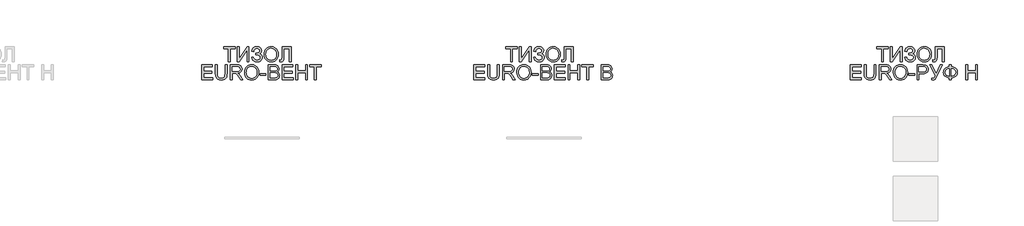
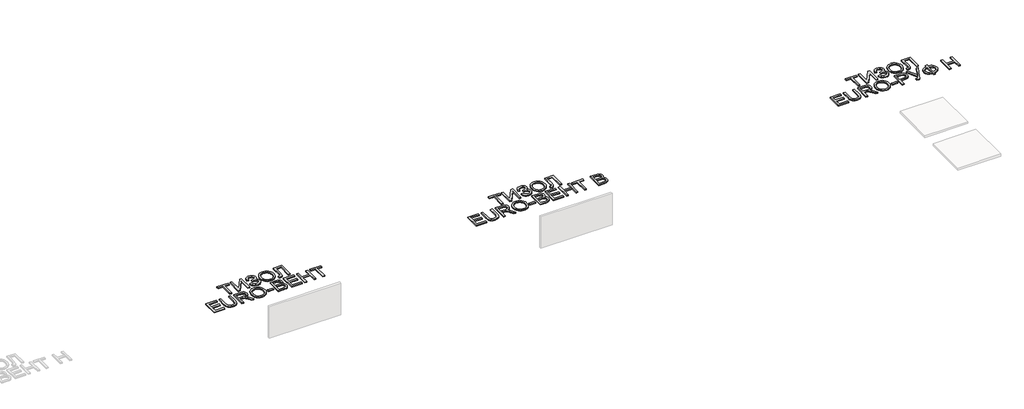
# One storey, part 32 of 35: 3 proxies.
"""IFC4 building model written with IfcOpenShell, lengths in millimetres."""

from ifc_helpers import new_model, si_unit, origin, origin_with_axes, place, context, project, spatial, polyline, outline, extrude, element, save

model = new_model("IFC4")

# Units and contexts
model_context = context("Model", 3, world=origin())
ifc_project = project(units=[si_unit("LENGTHUNIT", "METRE", prefix="MILLI")], contexts=[model_context])

# Site, building, storey
site = spatial("IfcSite", under=ifc_project)
building = spatial("IfcBuilding", under=site)
storey = spatial("IfcBuildingStorey", under=building, Name="Этаж 01", Elevation=0.0)

# Proxies
placement = place(None, origin())
element("IfcBuildingElementProxy", 1, Name="600 мм Arial", ObjectType="600 мм Arial", at=placement, inside=storey, context=model_context, shape_type="SweptSolid", body=[
    extrude(outline(polyline([(38812.8246338, 5315.0742808), (38812.8246338, 5578.7720949), (38713.9379535, 5578.7720949), (38713.9379535, 5616.4432112), (38949.3824304, 5616.4432112), (38949.3824304, 5578.7720949), (38850.4957501, 5578.7720949), (38850.4957501, 5315.0742808), (38812.8246338, 5315.0742808)])), origin_with_axes(), (0.0, 0.0, 1.0), 20.0),
    extrude(outline(polyline([(38991.7624363, 5616.4432112), (39029.4335526, 5616.4432112), (39029.4335526, 5377.7613727), (39187.1813521, 5616.4432112), (39227.2069132, 5616.4432112), (39227.2069132, 5315.0742808), (39189.5357969, 5315.0742808), (39189.5357969, 5553.0939316), (39032.1558793, 5315.0742808), (38991.7624363, 5315.0742808), (38991.7624363, 5616.4432112)])), origin_with_axes(), (0.0, 0.0, 1.0), 20.0),
    extrude(outline(polyline([(39279.0046981, 5399.8342925), (39316.6758144, 5409.2520715), (39324.6312626, 5388.8622119), (39339.8155919, 5368.4539583), (39361.6769795, 5353.1408702), (39389.6636023, 5348.0365075), (39418.018107, 5351.8716773), (39439.6587654, 5363.3771867), (39453.3715668, 5380.3089556), (39457.9425006, 5400.4229036), (39452.9485025, 5421.4933449), (39437.9665082, 5437.7629262), (39414.3760753, 5448.1647896), (39383.5567611, 5451.6320774), (39363.7647098, 5451.6320774), (39363.7647098, 5489.3031937), (39406.402233, 5492.3566142), (39420.2989754, 5497.7828737), (39432.4850665, 5507.9548108), (39440.9831406, 5521.3549125), (39443.8158319, 5536.4656655), (39440.0450415, 5554.2067747), (39428.7326701, 5569.4646804), (39410.9823639, 5579.9769084), (39387.8977687, 5583.4809844), (39367.0296625, 5580.7862488), (39349.4541002, 5572.702042), (39335.9896192, 5560.166463), (39327.4547569, 5544.117611), (39321.384704, 5517.5565309), (39283.7135876, 5526.97431), (39295.4168336, 5568.1770934), (39304.8311638, 5584.3639012), (39316.6206321, 5597.6076531), (39330.7852386, 5607.9083489), (39347.3249831, 5615.2659888), (39366.2398658, 5619.6805728), (39387.5298867, 5621.1521008), (39408.0416072, 5619.6230912), (39426.313846, 5615.0360626), (39442.3466032, 5607.3910149), (39456.1398788, 5596.6879481), (39467.2292217, 5583.9385377), (39475.1501809, 5570.1544592), (39479.9027564, 5555.3357126), (39481.4869483, 5539.4822978), (39479.0221389, 5519.6580568), (39471.6277108, 5502.1974576), (39459.3036639, 5487.1005002), (39442.0499984, 5474.3671847), (39463.000878, 5464.7194794), (39480.2361495, 5448.431504), (39491.76925, 5426.9012102), (39495.6136169, 5401.5265496), (39493.7696084, 5382.8956258), (39488.2375829, 5365.8511932), (39479.0175404, 5350.3932516), (39466.1094809, 5336.5218011), (39450.1571978, 5325.0783718), (39431.8044848, 5316.9044937), (39411.0513418, 5312.0001668), (39387.8977687, 5310.3653912), (39349.6932235, 5315.9571976), (39333.3362703, 5322.9469555), (39318.80953, 5332.7326165), (39306.1130026, 5345.3141808), (39295.2466882, 5360.6916482), (39279.0046981, 5399.8342925)])), origin_with_axes(), (0.0, 0.0, 1.0), 20.0),
    extrude(outline(polyline([(39533.2847332, 5461.7856204), (39535.7955278, 5497.1344817), (39543.3279116, 5528.4274439), (39555.8818847, 5555.6645071), (39573.457447, 5578.8456713), (39595.0015364, 5597.3547342), (39619.4610905, 5610.5754934), (39646.8361095, 5618.5079489), (39677.1265933, 5621.1521008), (39716.6555137, 5616.1856938), (39752.1009439, 5601.286473), (39781.5315035, 5577.502902), (39803.015812, 5545.8834445), (39816.1491993, 5507.9548108), (39820.526995, 5465.2437112), (39815.919273, 5421.9623945), (39802.096107, 5383.5003319), (39779.8208522, 5351.8256921), (39749.8568637, 5328.9066438), (39714.7149361, 5315.0007044), (39676.9058641, 5310.3653912), (39636.7699384, 5315.488148), (39601.1221731, 5330.8564184), (39571.7651899, 5355.0814477), (39550.5016105, 5386.7744816), (39537.5889525, 5423.2407844), (39533.2847332, 5461.7856204)]), holes=[polyline([(39570.9558495, 5461.4177384), (39572.8389454, 5436.4431495), (39578.4882333, 5414.2736608), (39587.9037131, 5394.9092722), (39601.0853849, 5378.3499839), (39617.108945, 5365.087838), (39635.0500901, 5355.6148766), (39654.90882, 5349.9310998), (39676.6851349, 5348.0365075), (39698.8339303, 5349.9494939), (39718.927185, 5355.688453), (39736.9648991, 5365.2533849), (39752.9470725, 5378.6442895), (39766.0321752, 5395.5530657), (39775.3786771, 5415.6716123), (39780.9865783, 5438.9999294), (39782.8558787, 5465.5380168), (39779.6553053, 5498.8865197), (39770.0535853, 5527.710074), (39754.2990388, 5551.2821128), (39732.6399864, 5568.8760692), (39706.5111677, 5579.8297556), (39677.3473225, 5583.4809844), (39656.327465, 5581.7220487), (39636.8251207, 5576.4452413), (39618.8402897, 5567.6505623), (39602.3729719, 5555.3380118), (39588.6279808, 5538.91438), (39578.8101301, 5517.7864572), (39572.9194196, 5491.9542433), (39570.9558495, 5461.4177384)])]), origin_with_axes(), (0.0, 0.0, 1.0), 20.0),
    extrude(outline(polyline([(39895.8692276, 5616.4432112), (40079.5159196, 5616.4432112), (40079.5159196, 5315.0742808), (40041.8448033, 5315.0742808), (40041.8448033, 5578.7720949), (39933.5403439, 5578.7720949), (39933.5403439, 5424.9974209), (39929.1625482, 5356.3874288), (39922.3843224, 5337.0000477), (39910.8052366, 5322.4687089), (39894.9495226, 5313.3912206), (39875.3414123, 5310.3653912), (39844.0714427, 5315.0742808), (39848.7803322, 5352.7453971), (39866.80655, 5348.0365075), (39879.5444641, 5350.5656963), (39888.6219523, 5358.1532624), (39894.0574088, 5375.1218194), (39895.8692276, 5405.7939808), (39895.8692276, 5616.4432112)])), origin_with_axes(), (0.0, 0.0, 1.0), 20.0),
    extrude(outline(polyline([(38271.3023369, 4949.1498272), (38271.3023369, 5250.5187577), (38487.9112557, 5250.5187577), (38487.9112557, 5212.8476414), (38308.9734532, 5212.8476414), (38308.9734532, 5123.3787401), (38478.4934766, 5123.3787401), (38478.4934766, 5085.7076238), (38308.9734532, 5085.7076238), (38308.9734532, 4986.8209435), (38492.6201452, 4986.8209435), (38492.6201452, 4949.1498272), (38271.3023369, 4949.1498272)])), origin_with_axes(), (0.0, 0.0, 1.0), 20.0),
    extrude(outline(polyline([(38746.9001803, 5250.5187577), (38784.5712966, 5250.5187577), (38784.5712966, 5076.6577268), (38782.0145167, 5035.9423869), (38774.3441771, 5004.5896439), (38760.0151734, 4980.4014027), (38737.4824012, 4961.1795685), (38706.6906782, 4948.6255954), (38667.5848221, 4944.4409377), (38629.3342917, 4948.0829694), (38598.7541008, 4959.0090647), (38575.8350525, 4976.8421444), (38560.5679497, 5001.2051295), (38551.9871022, 5033.8822478), (38549.1268197, 5076.6577268), (38549.1268197, 5250.5187577), (38586.797936, 5250.5187577), (38586.797936, 5077.9821019), (38588.6557401, 5044.1277613), (38594.2291523, 5020.5557225), (38604.3275131, 5004.230959), (38619.7601627, 4992.1184443), (38639.8833079, 4984.6136516), (38664.053155, 4982.112054), (38702.3680648, 4987.0600668), (38716.7108641, 4993.2450829), (38727.8438929, 5001.9041053), (38736.1810186, 5014.0809994), (38742.1361084, 5030.8196302), (38746.9001803, 5077.9821019), (38746.9001803, 5250.5187577)])), origin_with_axes(), (0.0, 0.0, 1.0), 20.0),
    extrude(outline(polyline([(38850.4957501, 4949.1498272), (38850.4957501, 5250.5187577), (38980.3580944, 5250.5187577), (39015.2608987, 5248.4862097), (39040.6539534, 5242.3885656), (39059.2136001, 5231.1313765), (39073.6161802, 5213.6201936), (39082.8592153, 5191.9059588), (39085.940227, 5168.0396144), (39080.8358644, 5138.3515373), (39065.5227763, 5113.7402319), (39053.9229971, 5103.710849), (39039.5411104, 5095.69562), (39002.4310141, 5085.7076238), (39023.8417463, 5069.5943925), (39054.3759519, 5030.8196302), (39104.6286324, 4949.1498272), (39060.850675, 4949.1498272), (39021.6344543, 5011.61619), (38993.3075407, 5052.9661263), (38973.4051247, 5072.5006602), (38955.4892715, 5079.6743591), (38933.637081, 5080.9987343), (38888.1668664, 5080.9987343), (38888.1668664, 4949.1498272), (38850.4957501, 4949.1498272)]), holes=[polyline([(38888.1668664, 5118.6698506), (38972.4854197, 5118.6698506), (38996.7012521, 5120.0034228), (39015.490825, 5124.0041395), (39029.6358877, 5130.9387151), (39039.9181894, 5141.0738641), (39046.1813804, 5153.3335316), (39048.2691107, 5166.6416628), (39044.2867881, 5185.0173684), (39032.3398203, 5199.8246187), (39011.7844139, 5209.5918857), (38981.9767752, 5212.8476414), (38888.1668664, 5212.8476414), (38888.1668664, 5118.6698506)])]), origin_with_axes(), (0.0, 0.0, 1.0), 20.0),
    extrude(outline(polyline([(39137.738012, 5095.8611669), (39140.2488066, 5131.2100281), (39147.7811904, 5162.5029903), (39160.3351635, 5189.7400536), (39177.9107258, 5212.9212178), (39199.4548152, 5231.4302807), (39223.9143693, 5244.6510399), (39251.2893883, 5252.5834954), (39281.5798721, 5255.2276472), (39321.1087925, 5250.2612403), (39356.5542227, 5235.3620195), (39385.9847823, 5211.5784485), (39407.4690908, 5179.958991), (39420.6024781, 5142.0303573), (39424.9802738, 5099.3192577), (39420.3725518, 5056.0379409), (39406.5493858, 5017.5758783), (39384.274131, 4985.9012385), (39354.3101425, 4962.9821902), (39319.1682149, 4949.0762508), (39281.3591429, 4944.4409377), (39241.2232172, 4949.5636945), (39205.5754519, 4964.9319648), (39176.2184687, 4989.1569942), (39154.9548893, 5020.8500281), (39142.0422313, 5057.3163309), (39137.738012, 5095.8611669)]), holes=[polyline([(39175.4091283, 5095.4932849), (39177.2922242, 5070.518696), (39182.9415121, 5048.3492072), (39192.3569919, 5028.9848187), (39205.5386637, 5012.4255304), (39221.5622238, 4999.1633845), (39239.5033689, 4989.6904231), (39259.3620988, 4984.0066463), (39281.1384137, 4982.112054), (39303.2872091, 4984.0250404), (39323.3804638, 4989.7639995), (39341.4181779, 4999.3289314), (39357.4003513, 5012.719836), (39370.485454, 5029.6286122), (39379.8319559, 5049.7471588), (39385.4398571, 5073.0754758), (39387.3091575, 5099.6135633), (39384.1085841, 5132.9620661), (39374.5068641, 5161.7856204), (39358.7523176, 5185.3576593), (39337.0932651, 5202.9516157), (39310.9644464, 5213.9053021), (39281.8006013, 5217.5565309), (39260.7807438, 5215.7975951), (39241.2783995, 5210.5207878), (39223.2935685, 5201.7261088), (39206.8262507, 5189.4135583), (39193.0812596, 5172.9899265), (39183.2634089, 5151.8620036), (39177.3726984, 5126.0297898), (39175.4091283, 5095.4932849)])]), origin_with_axes(), (0.0, 0.0, 1.0), 20.0),
    extrude(outline(polyline([(39453.233611, 5038.6187285), (39453.233611, 5076.2898448), (39570.9558495, 5076.2898448), (39570.9558495, 5038.6187285), (39453.233611, 5038.6187285)])), origin_with_axes(), (0.0, 0.0, 1.0), 20.0),
    extrude(outline(polyline([(39618.0447449, 4949.1498272), (39618.0447449, 5250.5187577), (39733.0446566, 5250.5187577), (39764.6733111, 5248.3022687), (39789.36739, 5241.6528016), (39808.2949187, 5230.4048096), (39822.6239224, 5214.3927458), (39831.6462283, 5195.5571876), (39834.6536636, 5175.8387127), (39832.1244749, 5157.6929332), (39824.5369088, 5140.6324057), (39811.8357829, 5125.7055938), (39793.965915, 5113.9609611), (39815.3122677, 5102.8141366), (39831.0852083, 5085.8547766), (39840.8248841, 5064.2049212), (39844.0714427, 5038.9866105), (39841.8549537, 5017.9713515), (39835.2054866, 4998.4828028), (39825.2818698, 4981.9097189), (39813.2429315, 4969.6408544), (39798.5000605, 4960.7565042), (39780.4646457, 4954.3369634), (39732.1617398, 4949.1498272), (39618.0447449, 4949.1498272)]), holes=[polyline([(39655.7158612, 5128.0876297), (39724.5097943, 5128.0876297), (39764.6825081, 5131.3249912), (39778.7447974, 5136.9076005), (39788.8523552, 5145.2677189), (39794.9499993, 5156.2765876), (39796.9825473, 5169.8054479), (39795.087955, 5182.9388352), (39789.4041782, 5194.3799652), (39780.1887342, 5203.3103006), (39767.6991405, 5208.911304), (39719.2858699, 5212.8476414), (39655.7158612, 5212.8476414), (39655.7158612, 5128.0876297)]), polyline([(39655.7158612, 4986.8209435), (39732.9710802, 4986.8209435), (39760.9301118, 4988.2924715), (39784.5849241, 4996.49624), (39800.2566971, 5013.2348708), (39804.8644191, 5025.0622769), (39806.4003264, 5038.6187285), (39804.5977046, 5054.3640779), (39799.1898393, 5067.9021353), (39789.7444691, 5078.4879397), (39775.8293326, 5085.37653), (39756.1200547, 5089.1565175), (39729.2922602, 5090.4165134), (39655.7158612, 5090.4165134), (39655.7158612, 4986.8209435)])]), origin_with_axes(), (0.0, 0.0, 1.0), 20.0),
    extrude(outline(polyline([(39895.8692276, 4949.1498272), (39895.8692276, 5250.5187577), (40112.4781464, 5250.5187577), (40112.4781464, 5212.8476414), (39933.5403439, 5212.8476414), (39933.5403439, 5123.3787401), (40103.0603673, 5123.3787401), (40103.0603673, 5085.7076238), (39933.5403439, 5085.7076238), (39933.5403439, 4986.8209435), (40117.1870359, 4986.8209435), (40117.1870359, 4949.1498272), (39895.8692276, 4949.1498272)])), origin_with_axes(), (0.0, 0.0, 1.0), 20.0),
    extrude(outline(polyline([(40173.6937104, 4949.1498272), (40173.6937104, 5250.5187577), (40211.3648267, 5250.5187577), (40211.3648267, 5128.0876297), (40371.467071, 5128.0876297), (40371.467071, 5250.5187577), (40409.1381873, 5250.5187577), (40409.1381873, 4949.1498272), (40371.467071, 4949.1498272), (40371.467071, 5090.4165134), (40211.3648267, 5090.4165134), (40211.3648267, 4949.1498272), (40173.6937104, 4949.1498272)])), origin_with_axes(), (0.0, 0.0, 1.0), 20.0),
    extrude(outline(polyline([(40550.4048734, 4949.1498272), (40550.4048734, 5212.8476414), (40451.5181931, 5212.8476414), (40451.5181931, 5250.5187577), (40686.96267, 5250.5187577), (40686.96267, 5212.8476414), (40588.0759897, 5212.8476414), (40588.0759897, 4949.1498272), (40550.4048734, 4949.1498272)])), origin_with_axes(), (0.0, 0.0, 1.0), 20.0),
])
element("IfcBuildingElementProxy", 2, Name="600 мм Arial", ObjectType="600 мм Arial", at=placement, inside=storey, context=model_context, shape_type="SweptSolid", body=[
    extrude(outline(polyline([(44512.8246338, 5315.0742808), (44512.8246338, 5578.7720949), (44413.9379535, 5578.7720949), (44413.9379535, 5616.4432112), (44649.3824304, 5616.4432112), (44649.3824304, 5578.7720949), (44550.4957501, 5578.7720949), (44550.4957501, 5315.0742808), (44512.8246338, 5315.0742808)])), origin_with_axes(), (0.0, 0.0, 1.0), 20.0),
    extrude(outline(polyline([(44691.7624363, 5616.4432112), (44729.4335526, 5616.4432112), (44729.4335526, 5377.7613727), (44887.1813521, 5616.4432112), (44927.2069132, 5616.4432112), (44927.2069132, 5315.0742808), (44889.5357969, 5315.0742808), (44889.5357969, 5553.0939316), (44732.1558793, 5315.0742808), (44691.7624363, 5315.0742808), (44691.7624363, 5616.4432112)])), origin_with_axes(), (0.0, 0.0, 1.0), 20.0),
    extrude(outline(polyline([(44979.0046981, 5399.8342925), (45016.6758144, 5409.2520715), (45024.6312626, 5388.8622119), (45039.8155919, 5368.4539583), (45061.6769795, 5353.1408702), (45089.6636023, 5348.0365075), (45118.018107, 5351.8716773), (45139.6587654, 5363.3771867), (45153.3715668, 5380.3089556), (45157.9425006, 5400.4229036), (45152.9485025, 5421.4933449), (45137.9665082, 5437.7629262), (45114.3760753, 5448.1647896), (45083.5567611, 5451.6320774), (45063.7647098, 5451.6320774), (45063.7647098, 5489.3031937), (45106.402233, 5492.3566142), (45120.2989754, 5497.7828737), (45132.4850665, 5507.9548108), (45140.9831406, 5521.3549125), (45143.8158319, 5536.4656655), (45140.0450415, 5554.2067747), (45128.7326701, 5569.4646804), (45110.9823639, 5579.9769084), (45087.8977687, 5583.4809844), (45067.0296625, 5580.7862488), (45049.4541002, 5572.702042), (45035.9896192, 5560.166463), (45027.4547569, 5544.117611), (45021.384704, 5517.5565309), (44983.7135876, 5526.97431), (44995.4168336, 5568.1770934), (45004.8311638, 5584.3639012), (45016.6206321, 5597.6076531), (45030.7852386, 5607.9083489), (45047.3249831, 5615.2659888), (45066.2398658, 5619.6805728), (45087.5298867, 5621.1521008), (45108.0416072, 5619.6230912), (45126.313846, 5615.0360626), (45142.3466032, 5607.3910149), (45156.1398788, 5596.6879481), (45167.2292217, 5583.9385377), (45175.1501809, 5570.1544592), (45179.9027564, 5555.3357126), (45181.4869483, 5539.4822978), (45179.0221389, 5519.6580568), (45171.6277108, 5502.1974576), (45159.3036639, 5487.1005002), (45142.0499984, 5474.3671847), (45163.000878, 5464.7194794), (45180.2361495, 5448.431504), (45191.76925, 5426.9012102), (45195.6136169, 5401.5265496), (45193.7696084, 5382.8956258), (45188.2375829, 5365.8511932), (45179.0175404, 5350.3932516), (45166.1094809, 5336.5218011), (45150.1571978, 5325.0783718), (45131.8044848, 5316.9044937), (45111.0513418, 5312.0001668), (45087.8977687, 5310.3653912), (45049.6932235, 5315.9571976), (45033.3362703, 5322.9469555), (45018.80953, 5332.7326165), (45006.1130026, 5345.3141808), (44995.2466882, 5360.6916482), (44979.0046981, 5399.8342925)])), origin_with_axes(), (0.0, 0.0, 1.0), 20.0),
    extrude(outline(polyline([(45233.2847332, 5461.7856204), (45235.7955278, 5497.1344817), (45243.3279116, 5528.4274439), (45255.8818847, 5555.6645071), (45273.457447, 5578.8456713), (45295.0015364, 5597.3547342), (45319.4610905, 5610.5754934), (45346.8361095, 5618.5079489), (45377.1265933, 5621.1521008), (45416.6555137, 5616.1856938), (45452.1009439, 5601.286473), (45481.5315035, 5577.502902), (45503.015812, 5545.8834445), (45516.1491993, 5507.9548108), (45520.526995, 5465.2437112), (45515.919273, 5421.9623945), (45502.096107, 5383.5003319), (45479.8208522, 5351.8256921), (45449.8568637, 5328.9066438), (45414.7149361, 5315.0007044), (45376.9058641, 5310.3653912), (45336.7699384, 5315.488148), (45301.1221731, 5330.8564184), (45271.7651899, 5355.0814477), (45250.5016105, 5386.7744816), (45237.5889525, 5423.2407844), (45233.2847332, 5461.7856204)]), holes=[polyline([(45270.9558495, 5461.4177384), (45272.8389454, 5436.4431495), (45278.4882333, 5414.2736608), (45287.9037131, 5394.9092722), (45301.0853849, 5378.3499839), (45317.108945, 5365.087838), (45335.0500901, 5355.6148766), (45354.90882, 5349.9310998), (45376.6851349, 5348.0365075), (45398.8339303, 5349.9494939), (45418.927185, 5355.688453), (45436.9648991, 5365.2533849), (45452.9470725, 5378.6442895), (45466.0321752, 5395.5530657), (45475.3786771, 5415.6716123), (45480.9865783, 5438.9999294), (45482.8558787, 5465.5380168), (45479.6553053, 5498.8865197), (45470.0535853, 5527.710074), (45454.2990388, 5551.2821128), (45432.6399864, 5568.8760692), (45406.5111677, 5579.8297556), (45377.3473225, 5583.4809844), (45356.327465, 5581.7220487), (45336.8251207, 5576.4452413), (45318.8402897, 5567.6505623), (45302.3729719, 5555.3380118), (45288.6279808, 5538.91438), (45278.8101301, 5517.7864572), (45272.9194196, 5491.9542433), (45270.9558495, 5461.4177384)])]), origin_with_axes(), (0.0, 0.0, 1.0), 20.0),
    extrude(outline(polyline([(45595.8692276, 5616.4432112), (45779.5159196, 5616.4432112), (45779.5159196, 5315.0742808), (45741.8448033, 5315.0742808), (45741.8448033, 5578.7720949), (45633.5403439, 5578.7720949), (45633.5403439, 5424.9974209), (45629.1625482, 5356.3874288), (45622.3843224, 5337.0000477), (45610.8052366, 5322.4687089), (45594.9495226, 5313.3912206), (45575.3414123, 5310.3653912), (45544.0714427, 5315.0742808), (45548.7803322, 5352.7453971), (45566.80655, 5348.0365075), (45579.5444641, 5350.5656963), (45588.6219523, 5358.1532624), (45594.0574088, 5375.1218194), (45595.8692276, 5405.7939808), (45595.8692276, 5616.4432112)])), origin_with_axes(), (0.0, 0.0, 1.0), 20.0),
    extrude(outline(polyline([(43773.5289763, 4949.1498272), (43773.5289763, 5250.5187577), (43990.1378951, 5250.5187577), (43990.1378951, 5212.8476414), (43811.2000926, 5212.8476414), (43811.2000926, 5123.3787401), (43980.720116, 5123.3787401), (43980.720116, 5085.7076238), (43811.2000926, 5085.7076238), (43811.2000926, 4986.8209435), (43994.8467846, 4986.8209435), (43994.8467846, 4949.1498272), (43773.5289763, 4949.1498272)])), origin_with_axes(), (0.0, 0.0, 1.0), 20.0),
    extrude(outline(polyline([(44249.1268197, 5250.5187577), (44286.797936, 5250.5187577), (44286.797936, 5076.6577268), (44284.2411561, 5035.9423869), (44276.5708165, 5004.5896439), (44262.2418128, 4980.4014027), (44239.7090406, 4961.1795685), (44208.9173176, 4948.6255954), (44169.8114615, 4944.4409377), (44131.5609311, 4948.0829694), (44100.9807402, 4959.0090647), (44078.0616919, 4976.8421444), (44062.7945891, 5001.2051295), (44054.2137416, 5033.8822478), (44051.3534591, 5076.6577268), (44051.3534591, 5250.5187577), (44089.0245754, 5250.5187577), (44089.0245754, 5077.9821019), (44090.8823795, 5044.1277613), (44096.4557917, 5020.5557225), (44106.5541524, 5004.230959), (44121.9868021, 4992.1184443), (44142.1099473, 4984.6136516), (44166.2797944, 4982.112054), (44204.5947042, 4987.0600668), (44218.9375034, 4993.2450829), (44230.0705323, 5001.9041053), (44238.407658, 5014.0809994), (44244.3627478, 5030.8196302), (44249.1268197, 5077.9821019), (44249.1268197, 5250.5187577)])), origin_with_axes(), (0.0, 0.0, 1.0), 20.0),
    extrude(outline(polyline([(44352.7223895, 4949.1498272), (44352.7223895, 5250.5187577), (44482.5847338, 5250.5187577), (44517.4875381, 5248.4862097), (44542.8805928, 5242.3885656), (44561.4402395, 5231.1313765), (44575.8428196, 5213.6201936), (44585.0858547, 5191.9059588), (44588.1668664, 5168.0396144), (44583.0625037, 5138.3515373), (44567.7494157, 5113.7402319), (44556.1496365, 5103.710849), (44541.7677498, 5095.69562), (44504.6576535, 5085.7076238), (44526.0683856, 5069.5943925), (44556.6025912, 5030.8196302), (44606.8552718, 4949.1498272), (44563.0773144, 4949.1498272), (44523.8610937, 5011.61619), (44495.53418, 5052.9661263), (44475.6317641, 5072.5006602), (44457.7159109, 5079.6743591), (44435.8637204, 5080.9987343), (44390.3935058, 5080.9987343), (44390.3935058, 4949.1498272), (44352.7223895, 4949.1498272)]), holes=[polyline([(44390.3935058, 5118.6698506), (44474.7120591, 5118.6698506), (44498.9278915, 5120.0034228), (44517.7174644, 5124.0041395), (44531.8625271, 5130.9387151), (44542.1448288, 5141.0738641), (44548.4080198, 5153.3335316), (44550.4957501, 5166.6416628), (44546.5134275, 5185.0173684), (44534.5664597, 5199.8246187), (44514.0110533, 5209.5918857), (44484.2034146, 5212.8476414), (44390.3935058, 5212.8476414), (44390.3935058, 5118.6698506)])]), origin_with_axes(), (0.0, 0.0, 1.0), 20.0),
    extrude(outline(polyline([(44639.9646514, 5095.8611669), (44642.475446, 5131.2100281), (44650.0078298, 5162.5029903), (44662.5618029, 5189.7400536), (44680.1373652, 5212.9212178), (44701.6814546, 5231.4302807), (44726.1410087, 5244.6510399), (44753.5160277, 5252.5834954), (44783.8065115, 5255.2276472), (44823.3354318, 5250.2612403), (44858.7808621, 5235.3620195), (44888.2114217, 5211.5784485), (44909.6957302, 5179.958991), (44922.8291174, 5142.0303573), (44927.2069132, 5099.3192577), (44922.5991912, 5056.0379409), (44908.7760252, 5017.5758783), (44886.5007704, 4985.9012385), (44856.5367819, 4962.9821902), (44821.3948543, 4949.0762508), (44783.5857823, 4944.4409377), (44743.4498566, 4949.5636945), (44707.8020913, 4964.9319648), (44678.445108, 4989.1569942), (44657.1815287, 5020.8500281), (44644.2688707, 5057.3163309), (44639.9646514, 5095.8611669)]), holes=[polyline([(44677.6357677, 5095.4932849), (44679.5188636, 5070.518696), (44685.1681515, 5048.3492072), (44694.5836313, 5028.9848187), (44707.7653031, 5012.4255304), (44723.7888632, 4999.1633845), (44741.7300083, 4989.6904231), (44761.5887382, 4984.0066463), (44783.3650531, 4982.112054), (44805.5138484, 4984.0250404), (44825.6071032, 4989.7639995), (44843.6448172, 4999.3289314), (44859.6269907, 5012.719836), (44872.7120934, 5029.6286122), (44882.0585953, 5049.7471588), (44887.6664965, 5073.0754758), (44889.5357969, 5099.6135633), (44886.3352235, 5132.9620661), (44876.7335034, 5161.7856204), (44860.978957, 5185.3576593), (44839.3199045, 5202.9516157), (44813.1910858, 5213.9053021), (44784.0272407, 5217.5565309), (44763.0073832, 5215.7975951), (44743.5050389, 5210.5207878), (44725.5202079, 5201.7261088), (44709.05289, 5189.4135583), (44695.307899, 5172.9899265), (44685.4900483, 5151.8620036), (44679.5993378, 5126.0297898), (44677.6357677, 5095.4932849)])]), origin_with_axes(), (0.0, 0.0, 1.0), 20.0),
    extrude(outline(polyline([(44955.4602504, 5038.6187285), (44955.4602504, 5076.2898448), (45073.1824889, 5076.2898448), (45073.1824889, 5038.6187285), (44955.4602504, 5038.6187285)])), origin_with_axes(), (0.0, 0.0, 1.0), 20.0),
    extrude(outline(polyline([(45120.2713843, 4949.1498272), (45120.2713843, 5250.5187577), (45235.2712959, 5250.5187577), (45266.8999505, 5248.3022687), (45291.5940294, 5241.6528016), (45310.5215581, 5230.4048096), (45324.8505618, 5214.3927458), (45333.8728677, 5195.5571876), (45336.880303, 5175.8387127), (45334.3511143, 5157.6929332), (45326.7635481, 5140.6324057), (45314.0624223, 5125.7055938), (45296.1925543, 5113.9609611), (45317.5389071, 5102.8141366), (45333.3118477, 5085.8547766), (45343.0515235, 5064.2049212), (45346.2980821, 5038.9866105), (45344.0815931, 5017.9713515), (45337.432126, 4998.4828028), (45327.5085092, 4981.9097189), (45315.4695709, 4969.6408544), (45300.7266999, 4960.7565042), (45282.6912851, 4954.3369634), (45234.3883792, 4949.1498272), (45120.2713843, 4949.1498272)]), holes=[polyline([(45157.9425006, 5128.0876297), (45226.7364337, 5128.0876297), (45266.9091475, 5131.3249912), (45280.9714368, 5136.9076005), (45291.0789946, 5145.2677189), (45297.1766387, 5156.2765876), (45299.2091867, 5169.8054479), (45297.3145944, 5182.9388352), (45291.6308176, 5194.3799652), (45282.4153736, 5203.3103006), (45269.9257799, 5208.911304), (45221.5125093, 5212.8476414), (45157.9425006, 5212.8476414), (45157.9425006, 5128.0876297)]), polyline([(45157.9425006, 4986.8209435), (45235.1977195, 4986.8209435), (45263.1567512, 4988.2924715), (45286.8115635, 4996.49624), (45302.4833365, 5013.2348708), (45307.0910585, 5025.0622769), (45308.6269658, 5038.6187285), (45306.824344, 5054.3640779), (45301.4164787, 5067.9021353), (45291.9711085, 5078.4879397), (45278.055972, 5085.37653), (45258.3466941, 5089.1565175), (45231.5188996, 5090.4165134), (45157.9425006, 5090.4165134), (45157.9425006, 4986.8209435)])]), origin_with_axes(), (0.0, 0.0, 1.0), 20.0),
    extrude(outline(polyline([(45398.095867, 4949.1498272), (45398.095867, 5250.5187577), (45614.7047858, 5250.5187577), (45614.7047858, 5212.8476414), (45435.7669833, 5212.8476414), (45435.7669833, 5123.3787401), (45605.2870067, 5123.3787401), (45605.2870067, 5085.7076238), (45435.7669833, 5085.7076238), (45435.7669833, 4986.8209435), (45619.4136753, 4986.8209435), (45619.4136753, 4949.1498272), (45398.095867, 4949.1498272)])), origin_with_axes(), (0.0, 0.0, 1.0), 20.0),
    extrude(outline(polyline([(45675.9203498, 4949.1498272), (45675.9203498, 5250.5187577), (45713.5914661, 5250.5187577), (45713.5914661, 5128.0876297), (45873.6937104, 5128.0876297), (45873.6937104, 5250.5187577), (45911.3648267, 5250.5187577), (45911.3648267, 4949.1498272), (45873.6937104, 4949.1498272), (45873.6937104, 5090.4165134), (45713.5914661, 5090.4165134), (45713.5914661, 4949.1498272), (45675.9203498, 4949.1498272)])), origin_with_axes(), (0.0, 0.0, 1.0), 20.0),
    extrude(outline(polyline([(46052.6315128, 4949.1498272), (46052.6315128, 5212.8476414), (45953.7448325, 5212.8476414), (45953.7448325, 5250.5187577), (46189.1893094, 5250.5187577), (46189.1893094, 5212.8476414), (46090.3026291, 5212.8476414), (46090.3026291, 4949.1498272), (46052.6315128, 4949.1498272)])), origin_with_axes(), (0.0, 0.0, 1.0), 20.0),
    extrude(outline(polyline([(46349.2915537, 4949.1498272), (46349.2915537, 5250.5187577), (46464.2914654, 5250.5187577), (46495.92012, 5248.3022687), (46520.6141989, 5241.6528016), (46539.5417275, 5230.4048096), (46553.8707313, 5214.3927458), (46562.8930372, 5195.5571876), (46565.9004725, 5175.8387127), (46563.3712838, 5157.6929332), (46555.7837176, 5140.6324057), (46543.0825918, 5125.7055938), (46525.2127238, 5113.9609611), (46546.5590766, 5102.8141366), (46562.3320171, 5085.8547766), (46572.071693, 5064.2049212), (46575.3182516, 5038.9866105), (46573.1017626, 5017.9713515), (46566.4522955, 4998.4828028), (46556.5286787, 4981.9097189), (46544.4897404, 4969.6408544), (46529.7468694, 4960.7565042), (46511.7114546, 4954.3369634), (46463.4085486, 4949.1498272), (46349.2915537, 4949.1498272)]), holes=[polyline([(46386.96267, 5128.0876297), (46455.7566031, 5128.0876297), (46495.929317, 5131.3249912), (46509.9916063, 5136.9076005), (46520.0991641, 5145.2677189), (46526.1968082, 5156.2765876), (46528.2293562, 5169.8054479), (46526.3347639, 5182.9388352), (46520.6509871, 5194.3799652), (46511.4355431, 5203.3103006), (46498.9459494, 5208.911304), (46450.5326788, 5212.8476414), (46386.96267, 5212.8476414), (46386.96267, 5128.0876297)]), polyline([(46386.96267, 4986.8209435), (46464.217889, 4986.8209435), (46492.1769207, 4988.2924715), (46515.831733, 4996.49624), (46531.503506, 5013.2348708), (46536.1112279, 5025.0622769), (46537.6471353, 5038.6187285), (46535.8445135, 5054.3640779), (46530.4366482, 5067.9021353), (46520.9912779, 5078.4879397), (46507.0761415, 5085.37653), (46487.3668636, 5089.1565175), (46460.5390691, 5090.4165134), (46386.96267, 5090.4165134), (46386.96267, 4986.8209435)])]), origin_with_axes(), (0.0, 0.0, 1.0), 20.0),
])
element("IfcBuildingElementProxy", 3, Name="600 мм Arial", ObjectType="600 мм Arial", at=placement, inside=storey, context=model_context, shape_type="SweptSolid", body=[
    extrude(outline(polyline([(52012.8246338, 5315.0742808), (52012.8246338, 5578.7720949), (51913.9379535, 5578.7720949), (51913.9379535, 5616.4432112), (52149.3824304, 5616.4432112), (52149.3824304, 5578.7720949), (52050.4957501, 5578.7720949), (52050.4957501, 5315.0742808), (52012.8246338, 5315.0742808)])), origin_with_axes(), (0.0, 0.0, 1.0), 20.0),
    extrude(outline(polyline([(52191.7624363, 5616.4432112), (52229.4335526, 5616.4432112), (52229.4335526, 5377.7613727), (52387.1813521, 5616.4432112), (52427.2069132, 5616.4432112), (52427.2069132, 5315.0742808), (52389.5357969, 5315.0742808), (52389.5357969, 5553.0939316), (52232.1558793, 5315.0742808), (52191.7624363, 5315.0742808), (52191.7624363, 5616.4432112)])), origin_with_axes(), (0.0, 0.0, 1.0), 20.0),
    extrude(outline(polyline([(52479.0046981, 5399.8342925), (52516.6758144, 5409.2520715), (52524.6312626, 5388.8622119), (52539.8155919, 5368.4539583), (52561.6769795, 5353.1408702), (52589.6636023, 5348.0365075), (52618.018107, 5351.8716773), (52639.6587654, 5363.3771867), (52653.3715668, 5380.3089556), (52657.9425006, 5400.4229036), (52652.9485025, 5421.4933449), (52637.9665082, 5437.7629262), (52614.3760753, 5448.1647896), (52583.5567611, 5451.6320774), (52563.7647098, 5451.6320774), (52563.7647098, 5489.3031937), (52606.402233, 5492.3566142), (52620.2989754, 5497.7828737), (52632.4850665, 5507.9548108), (52640.9831406, 5521.3549125), (52643.8158319, 5536.4656655), (52640.0450415, 5554.2067747), (52628.7326701, 5569.4646804), (52610.9823639, 5579.9769084), (52587.8977687, 5583.4809844), (52567.0296625, 5580.7862488), (52549.4541002, 5572.702042), (52535.9896192, 5560.166463), (52527.4547569, 5544.117611), (52521.384704, 5517.5565309), (52483.7135876, 5526.97431), (52495.4168336, 5568.1770934), (52504.8311638, 5584.3639012), (52516.6206321, 5597.6076531), (52530.7852386, 5607.9083489), (52547.3249831, 5615.2659888), (52566.2398658, 5619.6805728), (52587.5298867, 5621.1521008), (52608.0416072, 5619.6230912), (52626.313846, 5615.0360626), (52642.3466032, 5607.3910149), (52656.1398788, 5596.6879481), (52667.2292217, 5583.9385377), (52675.1501809, 5570.1544592), (52679.9027564, 5555.3357126), (52681.4869483, 5539.4822978), (52679.0221389, 5519.6580568), (52671.6277108, 5502.1974576), (52659.3036639, 5487.1005002), (52642.0499984, 5474.3671847), (52663.000878, 5464.7194794), (52680.2361495, 5448.431504), (52691.76925, 5426.9012102), (52695.6136169, 5401.5265496), (52693.7696084, 5382.8956258), (52688.2375829, 5365.8511932), (52679.0175404, 5350.3932516), (52666.1094809, 5336.5218011), (52650.1571978, 5325.0783718), (52631.8044848, 5316.9044937), (52611.0513418, 5312.0001668), (52587.8977687, 5310.3653912), (52549.6932235, 5315.9571976), (52533.3362703, 5322.9469555), (52518.80953, 5332.7326165), (52506.1130026, 5345.3141808), (52495.2466882, 5360.6916482), (52479.0046981, 5399.8342925)])), origin_with_axes(), (0.0, 0.0, 1.0), 20.0),
    extrude(outline(polyline([(52733.2847332, 5461.7856204), (52735.7955278, 5497.1344817), (52743.3279116, 5528.4274439), (52755.8818847, 5555.6645071), (52773.457447, 5578.8456713), (52795.0015364, 5597.3547342), (52819.4610905, 5610.5754934), (52846.8361095, 5618.5079489), (52877.1265933, 5621.1521008), (52916.6555137, 5616.1856938), (52952.1009439, 5601.286473), (52981.5315035, 5577.502902), (53003.015812, 5545.8834445), (53016.1491993, 5507.9548108), (53020.526995, 5465.2437112), (53015.919273, 5421.9623945), (53002.096107, 5383.5003319), (52979.8208522, 5351.8256921), (52949.8568637, 5328.9066438), (52914.7149361, 5315.0007044), (52876.9058641, 5310.3653912), (52836.7699384, 5315.488148), (52801.1221731, 5330.8564184), (52771.7651899, 5355.0814477), (52750.5016105, 5386.7744816), (52737.5889525, 5423.2407844), (52733.2847332, 5461.7856204)]), holes=[polyline([(52770.9558495, 5461.4177384), (52772.8389454, 5436.4431495), (52778.4882333, 5414.2736608), (52787.9037131, 5394.9092722), (52801.0853849, 5378.3499839), (52817.108945, 5365.087838), (52835.0500901, 5355.6148766), (52854.90882, 5349.9310998), (52876.6851349, 5348.0365075), (52898.8339303, 5349.9494939), (52918.927185, 5355.688453), (52936.9648991, 5365.2533849), (52952.9470725, 5378.6442895), (52966.0321752, 5395.5530657), (52975.3786771, 5415.6716123), (52980.9865783, 5438.9999294), (52982.8558787, 5465.5380168), (52979.6553053, 5498.8865197), (52970.0535853, 5527.710074), (52954.2990388, 5551.2821128), (52932.6399864, 5568.8760692), (52906.5111677, 5579.8297556), (52877.3473225, 5583.4809844), (52856.327465, 5581.7220487), (52836.8251207, 5576.4452413), (52818.8402897, 5567.6505623), (52802.3729719, 5555.3380118), (52788.6279808, 5538.91438), (52778.8101301, 5517.7864572), (52772.9194196, 5491.9542433), (52770.9558495, 5461.4177384)])]), origin_with_axes(), (0.0, 0.0, 1.0), 20.0),
    extrude(outline(polyline([(53095.8692276, 5616.4432112), (53279.5159196, 5616.4432112), (53279.5159196, 5315.0742808), (53241.8448033, 5315.0742808), (53241.8448033, 5578.7720949), (53133.5403439, 5578.7720949), (53133.5403439, 5424.9974209), (53129.1625482, 5356.3874288), (53122.3843224, 5337.0000477), (53110.8052366, 5322.4687089), (53094.9495226, 5313.3912206), (53075.3414123, 5310.3653912), (53044.0714427, 5315.0742808), (53048.7803322, 5352.7453971), (53066.80655, 5348.0365075), (53079.5444641, 5350.5656963), (53088.6219523, 5358.1532624), (53094.0574088, 5375.1218194), (53095.8692276, 5405.7939808), (53095.8692276, 5616.4432112)])), origin_with_axes(), (0.0, 0.0, 1.0), 20.0),
    extrude(outline(polyline([(51384.1878805, 4949.1498272), (51384.1878805, 5250.5187577), (51600.7967992, 5250.5187577), (51600.7967992, 5212.8476414), (51421.8589968, 5212.8476414), (51421.8589968, 5123.3787401), (51591.3790201, 5123.3787401), (51591.3790201, 5085.7076238), (51421.8589968, 5085.7076238), (51421.8589968, 4986.8209435), (51605.5056888, 4986.8209435), (51605.5056888, 4949.1498272), (51384.1878805, 4949.1498272)])), origin_with_axes(), (0.0, 0.0, 1.0), 20.0),
    extrude(outline(polyline([(51859.7857238, 5250.5187577), (51897.4568401, 5250.5187577), (51897.4568401, 5076.6577268), (51894.9000603, 5035.9423869), (51887.2297207, 5004.5896439), (51872.900717, 4980.4014027), (51850.3679447, 4961.1795685), (51819.5762218, 4948.6255954), (51780.4703657, 4944.4409377), (51742.2198352, 4948.0829694), (51711.6396444, 4959.0090647), (51688.7205961, 4976.8421444), (51673.4534933, 5001.2051295), (51664.8726457, 5033.8822478), (51662.0123632, 5076.6577268), (51662.0123632, 5250.5187577), (51699.6834795, 5250.5187577), (51699.6834795, 5077.9821019), (51701.5412836, 5044.1277613), (51707.1146958, 5020.5557225), (51717.2130566, 5004.230959), (51732.6457063, 4992.1184443), (51752.7688514, 4984.6136516), (51776.9386985, 4982.112054), (51815.2536083, 4987.0600668), (51829.5964076, 4993.2450829), (51840.7294365, 5001.9041053), (51849.0665622, 5014.0809994), (51855.021652, 5030.8196302), (51859.7857238, 5077.9821019), (51859.7857238, 5250.5187577)])), origin_with_axes(), (0.0, 0.0, 1.0), 20.0),
    extrude(outline(polyline([(51963.3812937, 4949.1498272), (51963.3812937, 5250.5187577), (52093.243638, 5250.5187577), (52128.1464423, 5248.4862097), (52153.539497, 5242.3885656), (52172.0991436, 5231.1313765), (52186.5017237, 5213.6201936), (52195.7447589, 5191.9059588), (52198.8257706, 5168.0396144), (52193.7214079, 5138.3515373), (52178.4083198, 5113.7402319), (52166.8085407, 5103.710849), (52152.4266539, 5095.69562), (52115.3165577, 5085.7076238), (52136.7272898, 5069.5943925), (52167.2614954, 5030.8196302), (52217.5141759, 4949.1498272), (52173.7362185, 4949.1498272), (52134.5199978, 5011.61619), (52106.1930842, 5052.9661263), (52086.2906683, 5072.5006602), (52068.3748151, 5079.6743591), (52046.5226246, 5080.9987343), (52001.05241, 5080.9987343), (52001.05241, 4949.1498272), (51963.3812937, 4949.1498272)]), holes=[polyline([(52001.05241, 5118.6698506), (52085.3709633, 5118.6698506), (52109.5867956, 5120.0034228), (52128.3763685, 5124.0041395), (52142.5214312, 5130.9387151), (52152.803733, 5141.0738641), (52159.066924, 5153.3335316), (52161.1546543, 5166.6416628), (52157.1723317, 5185.0173684), (52145.2253639, 5199.8246187), (52124.6699574, 5209.5918857), (52094.8623187, 5212.8476414), (52001.05241, 5212.8476414), (52001.05241, 5118.6698506)])]), origin_with_axes(), (0.0, 0.0, 1.0), 20.0),
    extrude(outline(polyline([(52250.6235555, 5095.8611669), (52253.1343501, 5131.2100281), (52260.666734, 5162.5029903), (52273.2207071, 5189.7400536), (52290.7962694, 5212.9212178), (52312.3403587, 5231.4302807), (52336.7999129, 5244.6510399), (52364.1749318, 5252.5834954), (52394.4654156, 5255.2276472), (52433.994336, 5250.2612403), (52469.4397662, 5235.3620195), (52498.8703258, 5211.5784485), (52520.3546344, 5179.958991), (52533.4880216, 5142.0303573), (52537.8658173, 5099.3192577), (52533.2580953, 5056.0379409), (52519.4349294, 5017.5758783), (52497.1596746, 4985.9012385), (52467.1956861, 4962.9821902), (52432.0537585, 4949.0762508), (52394.2446864, 4944.4409377), (52354.1087607, 4949.5636945), (52318.4609954, 4964.9319648), (52289.1040122, 4989.1569942), (52267.8404329, 5020.8500281), (52254.9277748, 5057.3163309), (52250.6235555, 5095.8611669)]), holes=[polyline([(52288.2946718, 5095.4932849), (52290.1777678, 5070.518696), (52295.8270557, 5048.3492072), (52305.2425355, 5028.9848187), (52318.4242072, 5012.4255304), (52334.4477674, 4999.1633845), (52352.3889124, 4989.6904231), (52372.2476424, 4984.0066463), (52394.0239572, 4982.112054), (52416.1727526, 4984.0250404), (52436.2660073, 4989.7639995), (52454.3037214, 4999.3289314), (52470.2858948, 5012.719836), (52483.3709975, 5029.6286122), (52492.7174995, 5049.7471588), (52498.3254006, 5073.0754758), (52500.194701, 5099.6135633), (52496.9941277, 5132.9620661), (52487.3924076, 5161.7856204), (52471.6378612, 5185.3576593), (52449.9788087, 5202.9516157), (52423.84999, 5213.9053021), (52394.6861448, 5217.5565309), (52373.6662873, 5215.7975951), (52354.163943, 5210.5207878), (52336.179112, 5201.7261088), (52319.7117942, 5189.4135583), (52305.9668032, 5172.9899265), (52296.1489524, 5151.8620036), (52290.258242, 5126.0297898), (52288.2946718, 5095.4932849)])]), origin_with_axes(), (0.0, 0.0, 1.0), 20.0),
    extrude(outline(polyline([(52566.1191546, 5038.6187285), (52566.1191546, 5076.2898448), (52683.841393, 5076.2898448), (52683.841393, 5038.6187285), (52566.1191546, 5038.6187285)])), origin_with_axes(), (0.0, 0.0, 1.0), 20.0),
    extrude(outline(polyline([(52730.9302884, 4949.1498272), (52730.9302884, 5250.5187577), (52842.6192621, 5250.5187577), (52887.6480183, 5247.6492781), (52907.7251782, 5242.287398), (52924.2522769, 5233.5593977), (52937.560408, 5221.069804), (52947.9806656, 5204.4231437), (52954.7129061, 5184.7874422), (52956.9569862, 5163.3307248), (52955.4417723, 5144.830859), (52950.8961304, 5127.8117182), (52943.3200605, 5112.2733024), (52932.7135628, 5098.2156117), (52918.1523335, 5086.5629495), (52898.7120694, 5078.2396193), (52874.3927702, 5073.2456213), (52845.1944361, 5071.5809552), (52768.6014047, 5071.5809552), (52768.6014047, 4949.1498272), (52730.9302884, 4949.1498272)]), holes=[polyline([(52768.6014047, 5109.2520715), (52847.4017281, 5109.2520715), (52880.8054132, 5112.7101623), (52902.8783329, 5123.0844345), (52915.1839857, 5139.7310948), (52919.2858699, 5162.0063496), (52916.8670458, 5178.9289214), (52909.6105735, 5193.2027428), (52898.4177638, 5203.9448971), (52884.1899276, 5210.2724674), (52846.5188113, 5212.8476414), (52768.6014047, 5212.8476414), (52768.6014047, 5109.2520715)])]), origin_with_axes(), (0.0, 0.0, 1.0), 20.0),
    extrude(outline(polyline([(52987.5647682, 5250.5187577), (53029.2825865, 5250.5187577), (53119.4136753, 5072.0224136), (53200.494867, 5250.5187577), (53241.8448033, 5250.5187577), (53127.4335028, 5015.7364684), (53110.1614431, 4979.2793626), (53096.310686, 4958.0525715), (53081.5402239, 4947.8438461), (53061.5090493, 4944.4409377), (53027.5903293, 4949.1498272), (53027.5903293, 4982.112054), (53057.2416181, 4982.112054), (53069.1058125, 4984.2089814), (53079.2409614, 4990.4997635), (53088.9714402, 5004.240156), (53099.621624, 5028.6859146), (52987.5647682, 5250.5187577)])), origin_with_axes(), (0.0, 0.0, 1.0), 20.0),
    extrude(outline(polyline([(53385.4659342, 5212.8476414), (53385.4659342, 5250.5187577), (53423.1370505, 5250.5187577), (53423.1370505, 5212.8476414), (53450.008531, 5209.5275064), (53473.8955688, 5202.6573101), (53494.7981639, 5192.2370526), (53512.7163164, 5178.2667338), (53527.0890061, 5161.5602927), (53537.355213, 5142.9316682), (53543.5149371, 5122.3808602), (53545.5681785, 5099.9078689), (53543.5793165, 5077.8855329), (53537.6127304, 5057.5830453), (53527.6684202, 5039.000406), (53513.7463859, 5022.1376151), (53496.1501303, 5007.928173), (53475.1831558, 4997.3055804), (53450.8454626, 4990.2698372), (53423.1370505, 4986.8209435), (53423.1370505, 4949.1498272), (53385.4659342, 4949.1498272), (53385.4659342, 4986.8209435), (53360.2982072, 4989.628343), (53337.3285752, 4995.9904023), (53316.557038, 5005.9071213), (53297.9835958, 5019.3785001), (53282.6935003, 5035.8481172), (53271.7720036, 5054.759551), (53265.2191056, 5076.1128016), (53263.0348062, 5099.9078689), (53265.2122078, 5123.8110015), (53271.7444125, 5145.1941425), (53282.6314203, 5164.0572918), (53297.8732312, 5180.4004494), (53316.4121845, 5193.7407702), (53337.1906194, 5203.5954092), (53360.208536, 5209.9643662), (53385.4659342, 5212.8476414)]), holes=[polyline([(53385.4659342, 5175.1765251), (53351.1885293, 5169.1432603), (53324.1400056, 5154.1336749), (53313.8875943, 5143.4283089), (53306.5644433, 5130.8099564), (53302.1705527, 5116.2786176), (53300.7059225, 5099.8342925), (53302.1521586, 5083.5394193), (53306.4908669, 5069.0885547), (53313.7220474, 5056.4816986), (53323.8457, 5045.718851), (53350.8206473, 5030.5713098), (53385.4659342, 5024.4920598), (53385.4659342, 5175.1765251)]), polyline([(53423.1370505, 5175.1765251), (53423.1370505, 5024.4920598), (53458.3801457, 5030.7184626), (53485.2355313, 5045.8660038), (53495.1499511, 5056.5920632), (53502.2316795, 5069.1621311), (53507.8970622, 5099.8342925), (53502.332847, 5130.0925866), (53495.3775781, 5142.5867788), (53485.6402015, 5153.3243346), (53458.8859834, 5168.6466197), (53423.1370505, 5175.1765251)])]), origin_with_axes(), (0.0, 0.0, 1.0), 20.0),
    extrude(outline(polyline([(53715.0882019, 4949.1498272), (53715.0882019, 5250.5187577), (53752.7593182, 5250.5187577), (53752.7593182, 5128.0876297), (53912.8615625, 5128.0876297), (53912.8615625, 5250.5187577), (53950.5326788, 5250.5187577), (53950.5326788, 4949.1498272), (53912.8615625, 4949.1498272), (53912.8615625, 5090.4165134), (53752.7593182, 5090.4165134), (53752.7593182, 4949.1498272), (53715.0882019, 4949.1498272)])), origin_with_axes(), (0.0, 0.0, 1.0), 20.0),
])

save(model, "model.ifc")
